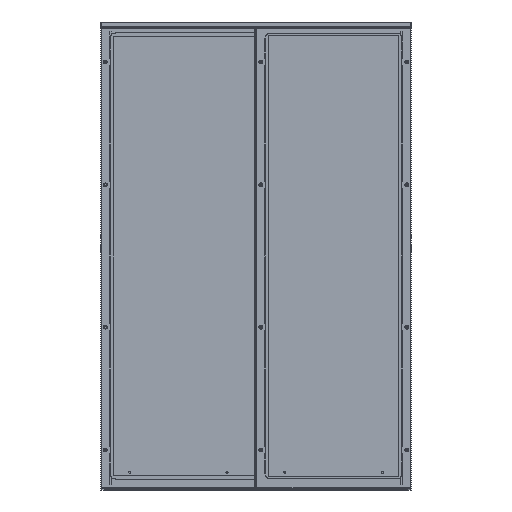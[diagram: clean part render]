
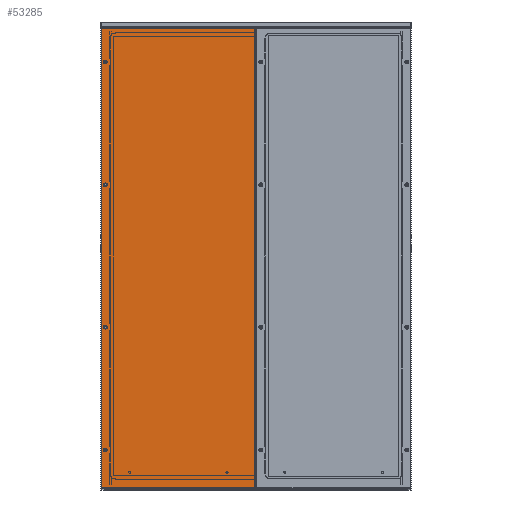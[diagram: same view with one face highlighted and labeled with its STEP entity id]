
A CAD part, front view. The second image highlights one B-rep face of the part: STEP entity #53285.
In plain terms, the highlighted planar face has unit normal (0, -1, 0) as drawn and (0, 0, -1) by its records, which use the part's own axes.
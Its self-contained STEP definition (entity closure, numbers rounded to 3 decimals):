
#117 = EDGE_LOOP ( 'NONE', ( #109266, #84441 ) ) ;
#1368 = EDGE_CURVE ( 'NONE', #10277, #30302, #93798, .T. ) ;
#2286 = CARTESIAN_POINT ( 'NONE',  ( 594., 0., 0. ) ) ;
#2466 = VERTEX_POINT ( 'NONE', #70016 ) ;
#2661 = EDGE_CURVE ( 'NONE', #2466, #72021, #10514, .T. ) ;
#3078 = EDGE_LOOP ( 'NONE', ( #101169, #89273 ) ) ;
#4569 = CIRCLE ( 'NONE', #8390, 7.32 ) ;
#4780 = EDGE_CURVE ( 'NONE', #72021, #10277, #56898, .T. ) ;
#8390 = AXIS2_PLACEMENT_3D ( 'NONE', #35135, #14212, #97070 ) ;
#10277 = VERTEX_POINT ( 'NONE', #83570 ) ;
#10514 = LINE ( 'NONE', #55520, #75500 ) ;
#12694 = AXIS2_PLACEMENT_3D ( 'NONE', #91707, #74892, #19049 ) ;
#12721 = CIRCLE ( 'NONE', #89406, 7.32 ) ;
#14212 = DIRECTION ( 'NONE',  ( 0., 0., -1. ) ) ;
#14293 = EDGE_CURVE ( 'NONE', #27038, #90853, #90774, .T. ) ;
#14610 = AXIS2_PLACEMENT_3D ( 'NONE', #90090, #99120, #100306 ) ;
#14643 = EDGE_CURVE ( 'NONE', #72473, #17636, #4569, .T. ) ;
#15966 = PLANE ( 'NONE',  #69628 ) ;
#17636 = VERTEX_POINT ( 'NONE', #82218 ) ;
#19049 = DIRECTION ( 'NONE',  ( -1., 0., 0. ) ) ;
#20388 = VECTOR ( 'NONE', #84538, 1000. ) ;
#22870 = AXIS2_PLACEMENT_3D ( 'NONE', #79910, #82276, #63042 ) ;
#24368 = CARTESIAN_POINT ( 'NONE',  ( 572.68, 623., 0. ) ) ;
#24783 = LINE ( 'NONE', #114909, #52027 ) ;
#26748 = ORIENTED_EDGE ( 'NONE', *, *, #94858, .F. ) ;
#27038 = VERTEX_POINT ( 'NONE', #34702 ) ;
#28573 = ORIENTED_EDGE ( 'NONE', *, *, #56218, .F. ) ;
#30302 = VERTEX_POINT ( 'NONE', #32494 ) ;
#30612 = EDGE_LOOP ( 'NONE', ( #59578, #30747, #110703, #45623 ) ) ;
#30747 = ORIENTED_EDGE ( 'NONE', *, *, #2661, .T. ) ;
#30886 = DIRECTION ( 'NONE',  ( -1., 0., 0. ) ) ;
#32494 = CARTESIAN_POINT ( 'NONE',  ( 2., 2., 0. ) ) ;
#34702 = CARTESIAN_POINT ( 'NONE',  ( 572.68, 148., 0. ) ) ;
#35135 = CARTESIAN_POINT ( 'NONE',  ( 580., 1648., 0. ) ) ;
#39437 = CIRCLE ( 'NONE', #58656, 7.32 ) ;
#40358 = CARTESIAN_POINT ( 'NONE',  ( 587.32, 1648., 0. ) ) ;
#40462 = CARTESIAN_POINT ( 'NONE',  ( 580., 1173., 0. ) ) ;
#43281 = VERTEX_POINT ( 'NONE', #24368 ) ;
#44734 = FACE_BOUND ( 'NONE', #63117, .T. ) ;
#45331 = FACE_BOUND ( 'NONE', #3078, .T. ) ;
#45623 = ORIENTED_EDGE ( 'NONE', *, *, #1368, .T. ) ;
#48648 = CARTESIAN_POINT ( 'NONE',  ( 580., 148., 0. ) ) ;
#50382 = ORIENTED_EDGE ( 'NONE', *, *, #14293, .F. ) ;
#51901 = EDGE_CURVE ( 'NONE', #30302, #2466, #24783, .T. ) ;
#52027 = VECTOR ( 'NONE', #97483, 1000. ) ;
#52565 = CARTESIAN_POINT ( 'NONE',  ( 0., 1778., 0. ) ) ;
#53285 = ADVANCED_FACE ( 'NONE', ( #45331, #97652, #44734, #98237, #82002 ), #15966, .T. ) ;
#54296 = CARTESIAN_POINT ( 'NONE',  ( 580., 623., 0. ) ) ;
#54670 = ORIENTED_EDGE ( 'NONE', *, *, #14643, .F. ) ;
#55520 = CARTESIAN_POINT ( 'NONE',  ( 596., 1776., 0. ) ) ;
#56218 = EDGE_CURVE ( 'NONE', #17636, #72473, #12721, .T. ) ;
#56220 = AXIS2_PLACEMENT_3D ( 'NONE', #48648, #85314, #67867 ) ;
#56898 = LINE ( 'NONE', #2286, #20388 ) ;
#58328 = DIRECTION ( 'NONE',  ( -1., 0., 0. ) ) ;
#58656 = AXIS2_PLACEMENT_3D ( 'NONE', #40462, #77139, #30886 ) ;
#59578 = ORIENTED_EDGE ( 'NONE', *, *, #51901, .T. ) ;
#63042 = DIRECTION ( 'NONE',  ( -1., 0., 0. ) ) ;
#63117 = EDGE_LOOP ( 'NONE', ( #28573, #54670 ) ) ;
#63612 = CARTESIAN_POINT ( 'NONE',  ( 580., 1648., 0. ) ) ;
#64424 = CIRCLE ( 'NONE', #12694, 7.32 ) ;
#66006 = CARTESIAN_POINT ( 'NONE',  ( 587.32, 623., 0. ) ) ;
#67867 = DIRECTION ( 'NONE',  ( -1., 0., 0. ) ) ;
#69628 = AXIS2_PLACEMENT_3D ( 'NONE', #52565, #117441, #90413 ) ;
#70016 = CARTESIAN_POINT ( 'NONE',  ( 2., 1776., 0. ) ) ;
#70793 = CIRCLE ( 'NONE', #22870, 7.32 ) ;
#71404 = CARTESIAN_POINT ( 'NONE',  ( 594., 1776., 0. ) ) ;
#72021 = VERTEX_POINT ( 'NONE', #71404 ) ;
#72473 = VERTEX_POINT ( 'NONE', #40358 ) ;
#72928 = DIRECTION ( 'NONE',  ( -1., 0., 0. ) ) ;
#73548 = AXIS2_PLACEMENT_3D ( 'NONE', #54296, #90949, #72928 ) ;
#74584 = CARTESIAN_POINT ( 'NONE',  ( 0., 2., 0. ) ) ;
#74892 = DIRECTION ( 'NONE',  ( 0., 0., -1. ) ) ;
#75252 = VECTOR ( 'NONE', #58328, 1000. ) ;
#75500 = VECTOR ( 'NONE', #91591, 1000. ) ;
#76858 = EDGE_LOOP ( 'NONE', ( #50382, #26748 ) ) ;
#77139 = DIRECTION ( 'NONE',  ( 0., 0., -1. ) ) ;
#77631 = VERTEX_POINT ( 'NONE', #90683 ) ;
#79910 = CARTESIAN_POINT ( 'NONE',  ( 580., 148., 0. ) ) ;
#82002 = FACE_OUTER_BOUND ( 'NONE', #30612, .T. ) ;
#82218 = CARTESIAN_POINT ( 'NONE',  ( 572.68, 1648., 0. ) ) ;
#82276 = DIRECTION ( 'NONE',  ( 0., 0., -1. ) ) ;
#83570 = CARTESIAN_POINT ( 'NONE',  ( 594., 2., 0. ) ) ;
#84441 = ORIENTED_EDGE ( 'NONE', *, *, #105058, .F. ) ;
#84538 = DIRECTION ( 'NONE',  ( 0., -1., 0. ) ) ;
#85314 = DIRECTION ( 'NONE',  ( 0., 0., -1. ) ) ;
#85981 = CARTESIAN_POINT ( 'NONE',  ( 572.68, 1173., 0. ) ) ;
#89273 = ORIENTED_EDGE ( 'NONE', *, *, #111822, .F. ) ;
#89406 = AXIS2_PLACEMENT_3D ( 'NONE', #63612, #107495, #91262 ) ;
#90031 = EDGE_CURVE ( 'NONE', #99462, #77631, #39437, .T. ) ;
#90090 = CARTESIAN_POINT ( 'NONE',  ( 580., 623., 0. ) ) ;
#90413 = DIRECTION ( 'NONE',  ( -1., 0., 0. ) ) ;
#90683 = CARTESIAN_POINT ( 'NONE',  ( 587.32, 1173., 0. ) ) ;
#90774 = CIRCLE ( 'NONE', #56220, 7.32 ) ;
#90853 = VERTEX_POINT ( 'NONE', #103895 ) ;
#90949 = DIRECTION ( 'NONE',  ( 0., 0., -1. ) ) ;
#91262 = DIRECTION ( 'NONE',  ( -1., 0., 0. ) ) ;
#91297 = CIRCLE ( 'NONE', #14610, 7.32 ) ;
#91591 = DIRECTION ( 'NONE',  ( 1., 0., 0. ) ) ;
#91644 = EDGE_CURVE ( 'NONE', #43281, #104652, #91297, .T. ) ;
#91707 = CARTESIAN_POINT ( 'NONE',  ( 580., 1173., 0. ) ) ;
#93798 = LINE ( 'NONE', #74584, #75252 ) ;
#94858 = EDGE_CURVE ( 'NONE', #90853, #27038, #70793, .T. ) ;
#97070 = DIRECTION ( 'NONE',  ( -1., 0., 0. ) ) ;
#97483 = DIRECTION ( 'NONE',  ( 0., 1., 0. ) ) ;
#97652 = FACE_BOUND ( 'NONE', #117, .T. ) ;
#98237 = FACE_BOUND ( 'NONE', #76858, .T. ) ;
#99120 = DIRECTION ( 'NONE',  ( 0., 0., -1. ) ) ;
#99462 = VERTEX_POINT ( 'NONE', #85981 ) ;
#100306 = DIRECTION ( 'NONE',  ( -1., 0., 0. ) ) ;
#101169 = ORIENTED_EDGE ( 'NONE', *, *, #91644, .F. ) ;
#103895 = CARTESIAN_POINT ( 'NONE',  ( 587.32, 148., 0. ) ) ;
#104652 = VERTEX_POINT ( 'NONE', #66006 ) ;
#105058 = EDGE_CURVE ( 'NONE', #77631, #99462, #64424, .T. ) ;
#106109 = CIRCLE ( 'NONE', #73548, 7.32 ) ;
#107495 = DIRECTION ( 'NONE',  ( 0., 0., -1. ) ) ;
#109266 = ORIENTED_EDGE ( 'NONE', *, *, #90031, .F. ) ;
#110703 = ORIENTED_EDGE ( 'NONE', *, *, #4780, .T. ) ;
#111822 = EDGE_CURVE ( 'NONE', #104652, #43281, #106109, .T. ) ;
#114909 = CARTESIAN_POINT ( 'NONE',  ( 2., 1778., 0. ) ) ;
#117441 = DIRECTION ( 'NONE',  ( 0., 0., -1. ) ) ;
